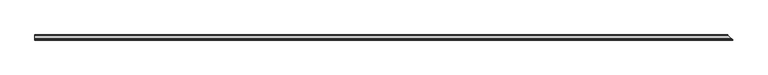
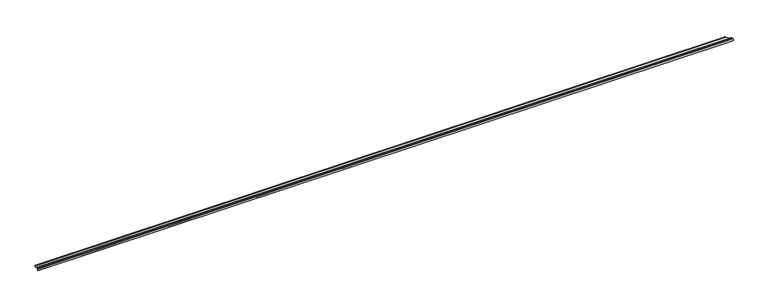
"""IFC4 building model written with IfcOpenShell, lengths in millimetres: proxy geometry, АК1_1 Примыкание к фундаментной балке : АК1_1 Примыкание к фундаментной балке."""

from ifc_helpers import new_model, si_unit, origin, place, context, project, spatial, faceted_brep, source, transform, mapped, element, save


def generic_models_17d95e17(model_context):
    return source(origin(), model_context, "Body", "Brep", [
        faceted_brep([(0.0, 116.5, 9.0), (0.0, 120.7449534, 17.660254), (20959.2550466, 120.7449534, 17.660254), (20963.5, 116.5, 9.0), (0.0, 1.5, 9.0), (21078.5, 1.5, 9.0), (0.0, 0.0, 6.4019238), (21080.0, 0.0, 6.4019238), (21093.5, -13.5, -16.9807621), (0.0, -13.5, -16.9807621), (0.0, -14.3660254, -16.4807621), (21094.3660254, -14.3660254, -16.4807621), (0.0, 0.9226497, 10.0), (0.0, 0.0, 8.4019238), (21080.0, 0.0, 8.4019238), (21079.0773503, 0.9226497, 10.0), (0.0, 115.9226497, 10.0), (20964.0773503, 115.9226497, 10.0), (0.0, 119.8842356, 18.0821477), (20960.1157644, 119.8842356, 18.0821477)], [[[0, 1, 2, 3]], [[4, 0, 3, 5]], [[6, 4, 5, 7, 8, 9]], [[10, 9, 8, 11]], [[12, 13, 10, 11, 14, 15]], [[16, 12, 15, 17]], [[18, 16, 17, 19]], [[1, 18, 19, 2]], [[6, 13, 12, 16, 18, 1, 0, 4]], [[13, 6, 9, 10]], [[14, 7, 5, 3, 2, 19, 17, 15]], [[7, 14, 11, 8]]]),
        faceted_brep([(0.0, -4.5, 33.6294353), (0.0, -4.5, 3.6294353), (21084.5, -4.5, 3.6294353), (21084.5, -4.5, 33.6294353), (0.0, -3.5, 33.6294353), (21083.5, -3.5, 33.6294353), (0.0, -3.5, 2.7903356), (21083.5, -3.5, 2.7903356), (0.0, -33.0442326, -2.4191097), (21113.0442326, -33.0442326, -2.4191097), (0.0, -33.0442326, -49.1657965), (21113.0442326, -33.0442326, -49.1657965), (0.0, -20.6092037, -36.7307676), (21100.6092037, -20.6092037, -36.7307676), (0.0, -19.902097, -37.4378744), (21099.902097, -19.902097, -37.4378744), (0.0, -34.0442326, -51.58001), (21114.0442326, -34.0442326, -51.58001), (0.0, -34.0442326, -1.58001), (21114.0442326, -34.0442326, -1.58001)], [[[0, 1, 2, 3]], [[4, 0, 3, 5]], [[6, 4, 5, 7]], [[8, 6, 7, 9]], [[10, 8, 9, 11]], [[12, 10, 11, 13]], [[14, 12, 13, 15]], [[16, 14, 15, 17]], [[18, 16, 17, 19]], [[1, 18, 19, 2]], [[1, 0, 4, 6, 8, 10, 12, 14, 16, 18]], [[3, 2, 19, 17, 15, 13, 11, 9, 7, 5]]]),
        faceted_brep([(0.0, -3.5, 35.0), (0.0, -3.5, 10.0), (21083.5, -3.5, 10.0), (21083.5, -3.5, 35.0), (0.0, -1.5, 35.0), (21081.5, -1.5, 35.0), (0.0, -1.5, 12.0), (21081.5, -1.5, 12.0), (0.0, 112.5, 12.0), (0.0, 0.0, 12.0), (21080.0, 0.0, 12.0), (20967.5, 112.5, 12.0), (0.0, 112.5, 35.0), (20967.5, 112.5, 35.0), (0.0, 114.5, 35.0), (20965.5, 114.5, 35.0), (0.0, 114.5, 10.0), (20965.5, 114.5, 10.0), (0.0, 0.0, 10.0), (21080.0, 0.0, 10.0)], [[[0, 1, 2, 3]], [[4, 0, 3, 5]], [[6, 4, 5, 7]], [[8, 9, 6, 7, 10, 11]], [[12, 8, 11, 13]], [[14, 12, 13, 15]], [[16, 14, 15, 17]], [[18, 16, 17, 19, 2, 1]], [[9, 18, 1, 0, 4, 6]], [[19, 10, 7, 5, 3, 2]], [[18, 9, 8, 12, 14, 16]], [[10, 19, 17, 15, 13, 11]]]),
    ])


if __name__ == "__main__":
    model = new_model("IFC4")
    model_context = context("Model", 3, world=origin())
    ifc_project = project(units=[si_unit("LENGTHUNIT", "METRE", prefix="MILLI")], contexts=[model_context])
    site = spatial("IfcSite", under=ifc_project)
    building = spatial("IfcBuilding", under=site)
    placement = place(None, origin())
    generic_models_shape = generic_models_17d95e17(model_context)
    element("IfcBuildingElementProxy", 1, Name="АК1_1 Примыкание к фундаментной балке : АК1_1 Примыкание к фундаментной балке", ObjectType="АК1_1 Примыкание к фундаментной балке : АК1_1 Примыкание к фундаментной балке", at=placement, inside=building, context=model_context, shape_type="MappedRepresentation", body=[
        mapped(generic_models_shape, transform((0.0, 0.0, 0.0), x_axis=(1.0, 0.0, 0.0), y_axis=(0.0, 1.0, 0.0), z_axis=(0.0, 0.0, 1.0))),
    ])
    save(model, "model.ifc")
